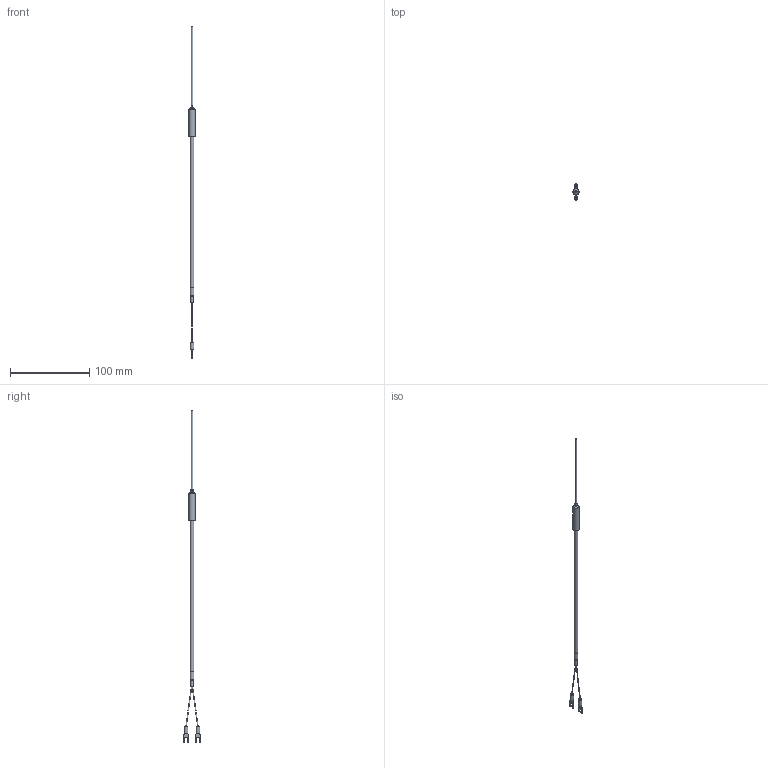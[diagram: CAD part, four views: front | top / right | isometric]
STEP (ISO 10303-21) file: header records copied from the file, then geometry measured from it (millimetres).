
FILE_DESCRIPTION (( 'STEP AP203' ), '1' );
FILE_NAME ('YIT101S-8(0).STEP', '2024-05-02T06:53:54', ( '' ), ( '' ), 'SwSTEP 2.0', 'SolidWorks 2021', '' );
FILE_SCHEMA (( 'CONFIG_CONTROL_DESIGN' ));
Length unit declared in the file: millimetre
Products named in the file (1): YIT101S-8(0)
Bounding box: 8 x 20.85 x 420 mm (x, y, z)
Volume: 6339.9 mm3; surface area: 5634.8 mm2
Topology: 1 solids, 1 shells, 67 faces, 163 edges, 106 vertices
Faces by surface type: plane 34, cylinder 21, bspline 8, cone 3, torus 1
Full cylindrical faces by diameter (mm): 2.3 x1, 3.16 x1, 4.5 x2, 4.8 x1, 5 x1, 8 x1
Entity records: 2101 total; most frequent: CARTESIAN_POINT 538, DIRECTION 300, ORIENTED_EDGE 290, EDGE_CURVE 145, AXIS2_PLACEMENT_3D 107, VERTEX_POINT 101, EDGE_LOOP 88, VECTOR 86
